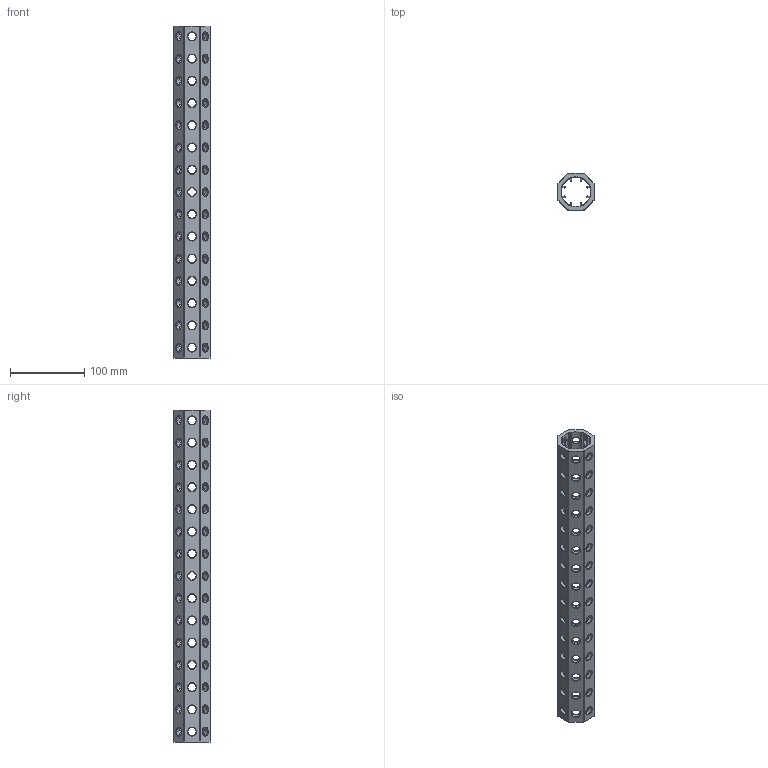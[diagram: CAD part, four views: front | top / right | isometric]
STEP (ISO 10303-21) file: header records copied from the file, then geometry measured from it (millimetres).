
FILE_DESCRIPTION(('CATIA V5 STEP Exchange'),'2;1');
FILE_NAME('U:\Room\唐宝山\EGT002\46-01-010244-01-EGT002-448.stp','2021-08-24T01:01:05+00:00',('none'),('none'),'CATIA Version 5 Release 21 GA (IN-10)','CATIA V5 STEP AP203','none');
FILE_SCHEMA(('CONFIG_CONTROL_DESIGN'));
Length unit declared in the file: millimetre
Products named in the file (1): 46-01-010244-01-EGT002-448
Bounding box: 50 x 50 x 448 mm (x, y, z)
Volume: 318992.5 mm3; surface area: 155189.7 mm2
Topology: 1 solids, 1 shells, 684 faces, 1896 edges, 1184 vertices
Faces by surface type: cone 360, cylinder 298, plane 26
Entity records: 28416 total; most frequent: CARTESIAN_POINT 11761, ORIENTED_EDGE 3792, DIRECTION 2681, EDGE_CURVE 1896, AXIS2_PLACEMENT_3D 1238, VERTEX_POINT 1184, EDGE_LOOP 896, VECTOR 760
